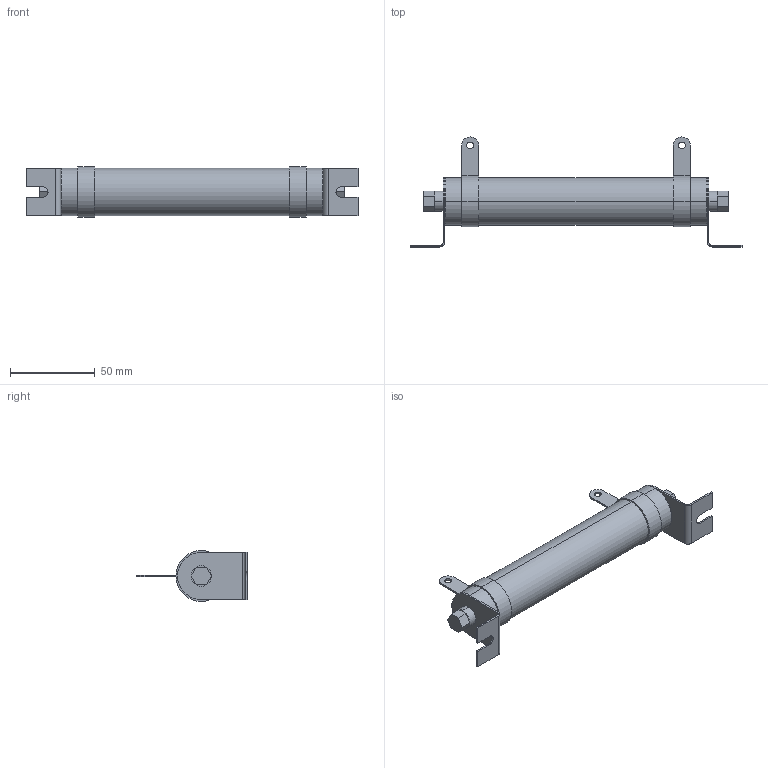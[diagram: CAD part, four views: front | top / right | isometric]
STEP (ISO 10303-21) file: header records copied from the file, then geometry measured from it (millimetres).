
FILE_DESCRIPTION (( 'STEP AP203' ), '1' );
FILE_NAME ('IRT-400-80.STEP', '2022-11-16T11:58:51', ( '' ), ( '' ), 'SwSTEP 2.0', 'SolidWorks 2018', '' );
FILE_SCHEMA (( 'CONFIG_CONTROL_DESIGN' ));
Length unit declared in the file: millimetre
Products named in the file (1): IRT-400-80
Bounding box: 196 x 65 x 30 mm (x, y, z)
Volume: 103005.7 mm3; surface area: 21166.2 mm2
Topology: 1 solids, 1 shells, 94 faces, 222 edges, 140 vertices
Faces by surface type: plane 56, cylinder 38
Entity records: 2787 total; most frequent: DIRECTION 500, CARTESIAN_POINT 457, ORIENTED_EDGE 444, EDGE_CURVE 222, AXIS2_PLACEMENT_3D 183, VERTEX_POINT 140, LINE 134, VECTOR 134
